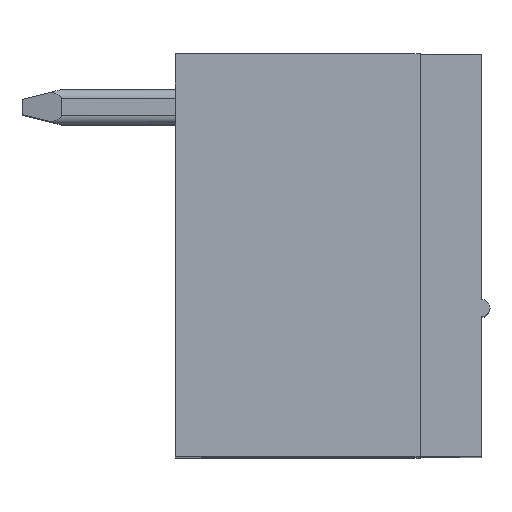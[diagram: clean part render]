
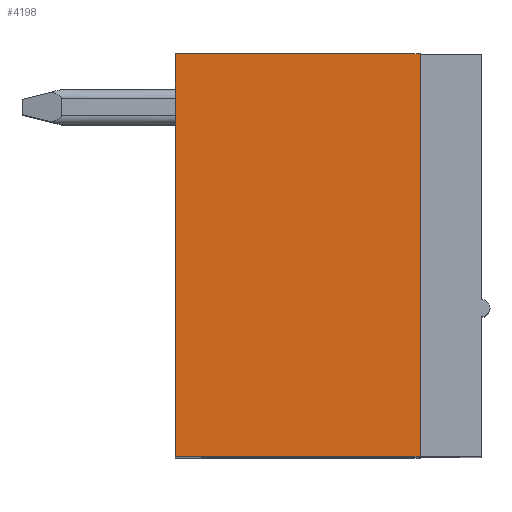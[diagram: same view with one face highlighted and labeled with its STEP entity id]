
A CAD part, top view. The second image highlights one B-rep face of the part: STEP entity #4198.
In plain terms, the highlighted planar face has unit normal (0, 0, 1).
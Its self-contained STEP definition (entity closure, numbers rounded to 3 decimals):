
#982=DIRECTION('',(0.,-1.,0.));
#983=VECTOR('',#982,9.2);
#984=CARTESIAN_POINT('',(9.1,9.2,-0.372));
#985=LINE('',#984,#983);
#986=DIRECTION('',(-1.,0.,0.));
#987=VECTOR('',#986,5.6);
#988=CARTESIAN_POINT('',(9.1,0.,-0.372));
#989=LINE('',#988,#987);
#990=DIRECTION('',(0.,1.,0.));
#991=VECTOR('',#990,9.2);
#992=CARTESIAN_POINT('',(3.5,0.,-0.372));
#993=LINE('',#992,#991);
#994=DIRECTION('',(1.,0.,0.));
#995=VECTOR('',#994,5.6);
#996=CARTESIAN_POINT('',(3.5,9.2,-0.372));
#997=LINE('',#996,#995);
#2228=CARTESIAN_POINT('',(3.5,0.,-0.372));
#2229=VERTEX_POINT('',#2228);
#2230=CARTESIAN_POINT('',(9.1,0.,-0.372));
#2231=VERTEX_POINT('',#2230);
#2399=CARTESIAN_POINT('',(9.1,9.2,-0.372));
#2400=VERTEX_POINT('',#2399);
#2401=CARTESIAN_POINT('',(3.5,9.2,-0.372));
#2402=VERTEX_POINT('',#2401);
#4186=CARTESIAN_POINT('',(6.3,4.6,-0.372));
#4187=DIRECTION('',(0.,0.,1.));
#4188=DIRECTION('',(1.,0.,0.));
#4189=AXIS2_PLACEMENT_3D('',#4186,#4187,#4188);
#4190=PLANE('',#4189);
#4192=ORIENTED_EDGE('',*,*,#4191,.T.);
#4193=ORIENTED_EDGE('',*,*,#3235,.T.);
#4194=ORIENTED_EDGE('',*,*,#3944,.T.);
#4195=ORIENTED_EDGE('',*,*,#3402,.T.);
#4196=EDGE_LOOP('',(#4192,#4193,#4194,#4195));
#4197=FACE_OUTER_BOUND('',#4196,.F.);
#4198=ADVANCED_FACE('',(#4197),#4190,.T.);
#3235=EDGE_CURVE('',#2231,#2229,#989,.T.);
#3402=EDGE_CURVE('',#2402,#2400,#997,.T.);
#3944=EDGE_CURVE('',#2229,#2402,#993,.T.);
#4191=EDGE_CURVE('',#2400,#2231,#985,.T.);
